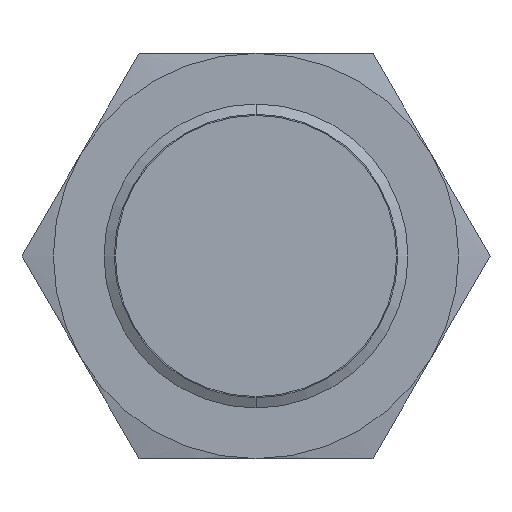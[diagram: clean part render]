
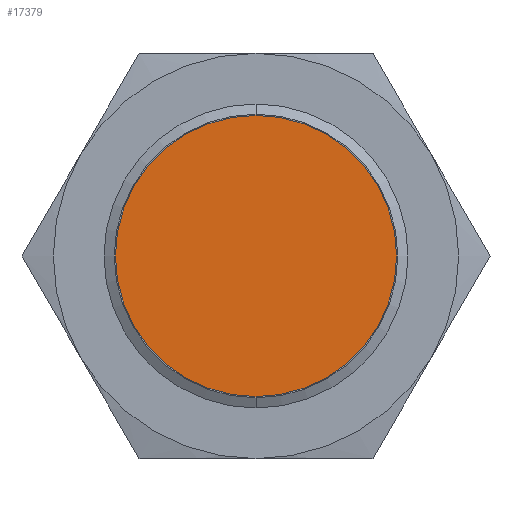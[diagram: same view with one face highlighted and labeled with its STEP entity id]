
A CAD part, left-side view. The second image highlights one B-rep face of the part: STEP entity #17379.
In plain terms, the highlighted planar face has unit normal (-1, 0, 0).
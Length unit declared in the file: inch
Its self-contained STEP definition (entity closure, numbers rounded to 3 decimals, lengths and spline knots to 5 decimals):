
#16468 = ORIENTED_EDGE ( 'NONE', *, *, #17855, .F. ) ;
#17098 = EDGE_LOOP ( 'NONE', ( #16468, #9107 ) ) ;
#17379 = ADVANCED_FACE ( 'NONE', ( #11674 ), #11675, .F. ) ;
#17855 = EDGE_CURVE ( 'NONE', #14812, #15205, #12151, .T. ) ;
#8731 = CARTESIAN_POINT ( 'NONE',  ( 0., 0., 0.3275 ) ) ;
#8934 = CIRCLE ( 'NONE', #8935, 0.3275 ) ;
#8935 = AXIS2_PLACEMENT_3D ( 'NONE', #8936, #8937, #8938 ) ;
#8936 = CARTESIAN_POINT ( 'NONE',  ( 0., 0., 0. ) ) ;
#8937 = DIRECTION ( 'NONE',  ( 1., 0., 0. ) ) ;
#8938 = DIRECTION ( 'NONE',  ( 0., 0., 1. ) ) ;
#9107 = ORIENTED_EDGE ( 'NONE', *, *, #14893, .F. ) ;
#9897 = CARTESIAN_POINT ( 'NONE',  ( 0., 0., -0.3275 ) ) ;
#11674 = FACE_OUTER_BOUND ( 'NONE', #17098, .T. ) ;
#11675 = PLANE ( 'NONE',  #11676 ) ;
#11676 = AXIS2_PLACEMENT_3D ( 'NONE', #11677, #11678, #11679 ) ;
#11677 = CARTESIAN_POINT ( 'NONE',  ( 0., 0., 0. ) ) ;
#11678 = DIRECTION ( 'NONE',  ( 1., 0., 0. ) ) ;
#11679 = DIRECTION ( 'NONE',  ( 0., 0., -1. ) ) ;
#12151 = CIRCLE ( 'NONE', #12152, 0.3275 ) ;
#12152 = AXIS2_PLACEMENT_3D ( 'NONE', #12153, #12154, #12159 ) ;
#12153 = CARTESIAN_POINT ( 'NONE',  ( 0., 0., 0. ) ) ;
#12154 = DIRECTION ( 'NONE',  ( 1., 0., 0. ) ) ;
#12159 = DIRECTION ( 'NONE',  ( 0., 0., 1. ) ) ;
#14812 = VERTEX_POINT ( 'NONE', #8731 ) ;
#14893 = EDGE_CURVE ( 'NONE', #15205, #14812, #8934, .T. ) ;
#15205 = VERTEX_POINT ( 'NONE', #9897 ) ;
